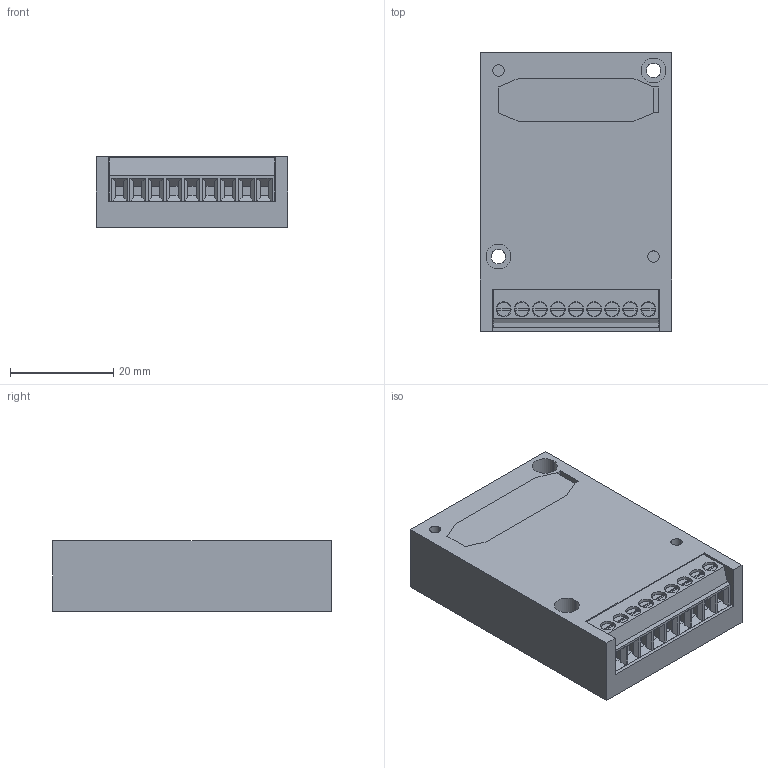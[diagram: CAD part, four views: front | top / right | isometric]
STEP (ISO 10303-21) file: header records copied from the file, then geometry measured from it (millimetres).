
FILE_DESCRIPTION (( 'STEP AP214' ), '1' );
FILE_NAME ('afpx-ad2.step', '2009-08-28T01:45:35', ( '' ), ( 'PanasonicElectricWorks' ), '', '', '' );
FILE_SCHEMA (( 'AUTOMOTIVE_DESIGN' ));
Length unit declared in the file: millimetre
Products named in the file (1): afpx-ad2
Bounding box: 37 x 53.8 x 13.6 mm (x, y, z)
Volume: 19210.8 mm3; surface area: 9776.2 mm2
Topology: 2 solids, 2 shells, 277 faces, 705 edges, 470 vertices
Faces by surface type: plane 225, cylinder 52
Entity records: 11406 total; most frequent: CARTESIAN_POINT 1453, ORIENTED_EDGE 1410, DIRECTION 1401, EDGE_CURVE 705, VECTOR 565, LINE 565, VERTEX_POINT 470, AXIS2_PLACEMENT_3D 418
